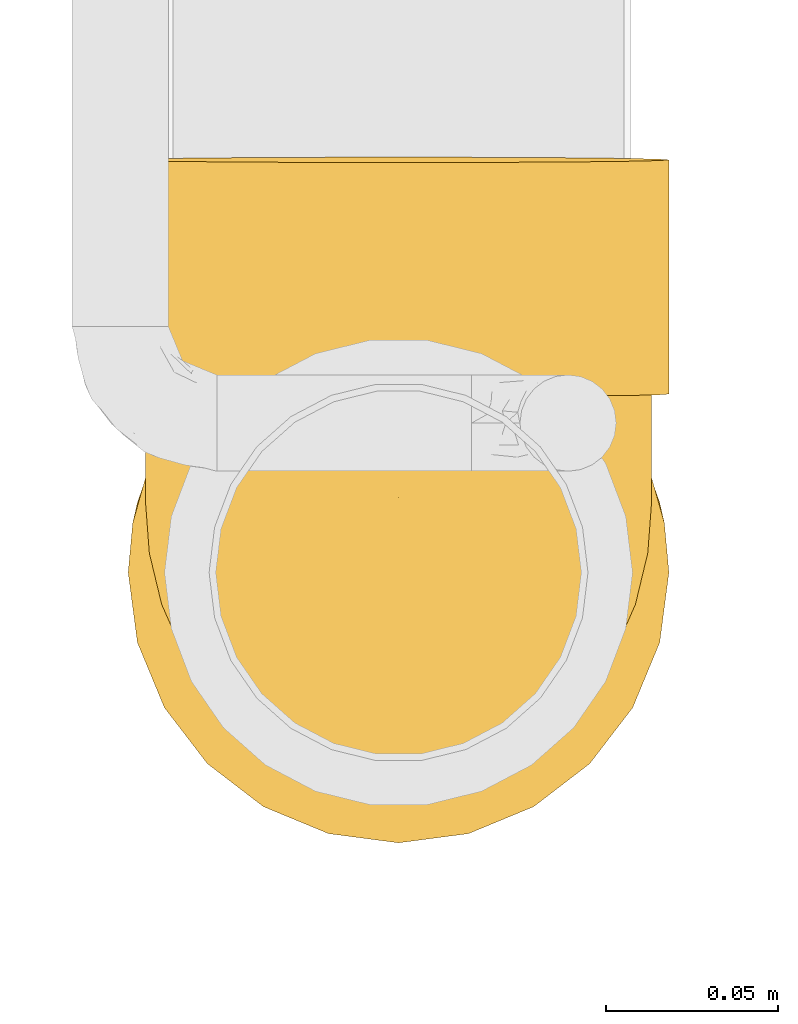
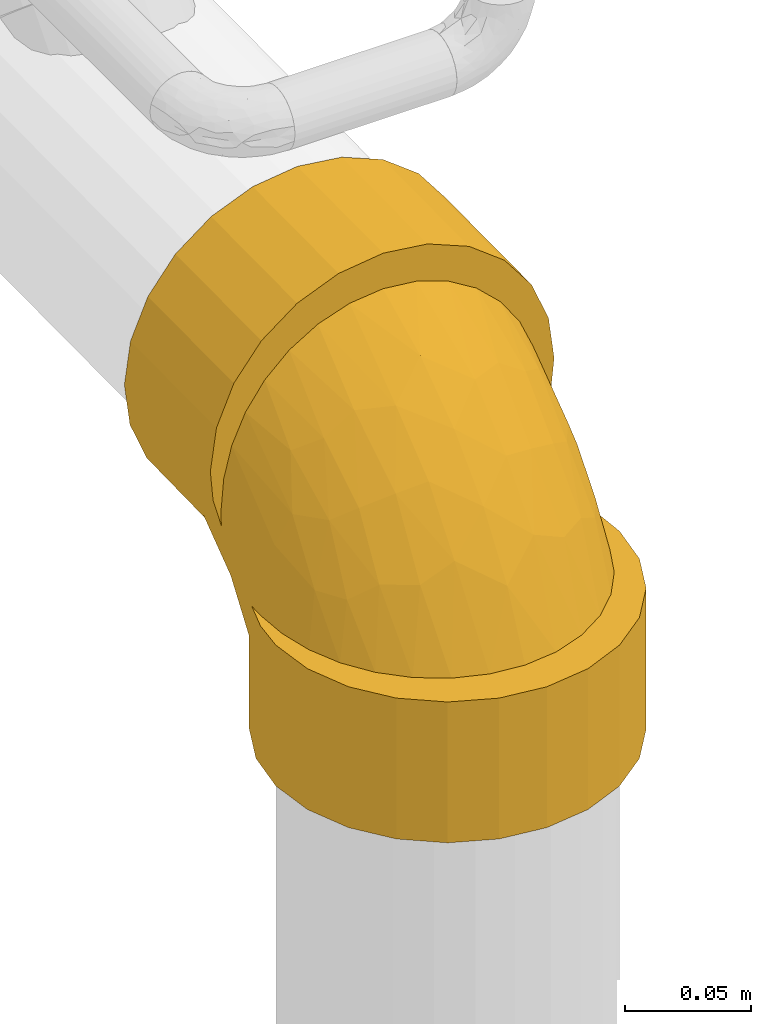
# One storey, part 11 of 108: 1 covering.
"""IFC2X3 building model written with IfcOpenShell, lengths in millimetres."""

from ifc_helpers import new_model, entity, si_unit, converted_unit, derived_unit, direction, frame, origin_with_axes, place, context, subcontext, project, spatial, open_shell, surface_model, source, transform, mapped, element, save


model = new_model("IFC2X3")

# Units and contexts
model_context = context("Model", 3, precision=0.01, world=frame((0.0, 4.29681676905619e-09, 0.0)), true_north=direction((4.01073788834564e-13, 1.0)))
plan_context = context("Plan", 3, precision=0.01, world=frame((0.0, 4.29681676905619e-09, 0.0)), true_north=direction((4.01073788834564e-13, 1.0)))
body_context = subcontext(model_context, "Body", "Model", "MODEL_VIEW")
ifc_project = project(units=[converted_unit("PLANEANGLEUNIT", "DEGREE", entity("IfcPositiveLengthMeasure", 0.0174532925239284), si_unit("PLANEANGLEUNIT", "RADIAN"), dimensions=[0, 0, 0, 0, 0, 0, 0]), si_unit("AREAUNIT", "SQUARE_METRE"), si_unit("LENGTHUNIT", "METRE", prefix="MILLI"), si_unit("MASSUNIT", "GRAM", prefix="KILO"), si_unit("POWERUNIT", "WATT"), si_unit("PRESSUREUNIT", "PASCAL", prefix="KILO"), si_unit("FORCEUNIT", "NEWTON", prefix="KILO"), si_unit("ELECTRICVOLTAGEUNIT", "VOLT"), si_unit("ELECTRICCURRENTUNIT", "AMPERE"), si_unit("THERMODYNAMICTEMPERATUREUNIT", "DEGREE_CELSIUS"), si_unit("TIMEUNIT", "SECOND"), si_unit("VOLUMEUNIT", "CUBIC_METRE"), derived_unit("LINEARVELOCITYUNIT", [(si_unit("LENGTHUNIT", "METRE"), 1), (si_unit("TIMEUNIT", "SECOND"), -1)]), derived_unit("VOLUMETRICFLOWRATEUNIT", [(si_unit("VOLUMEUNIT", "CUBIC_METRE"), 1), (si_unit("TIMEUNIT", "SECOND"), -1)]), derived_unit("THERMALTRANSMITTANCEUNIT", [(si_unit("POWERUNIT", "WATT"), 1), (si_unit("THERMODYNAMICTEMPERATUREUNIT", "KELVIN"), -1), (si_unit("AREAUNIT", "SQUARE_METRE"), -1)]), derived_unit("SOUNDPRESSUREUNIT", [(si_unit("PRESSUREUNIT", "PASCAL"), 1)])], contexts=[model_context, plan_context])

# Site, building, storey
site_placement = place(None, frame((0.0, -4.29681676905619e-09, 0.0), z_axis=(0.0, 0.0, 1.0), x_axis=(1.0, 0.0, 0.0)))
site = spatial("IfcSite", under=ifc_project, at=site_placement, CompositionType="ELEMENT")
building_placement = place(site_placement, frame((0.0, 4.29681676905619e-09, 0.0), z_axis=(0.0, 0.0, 1.0), x_axis=(1.0, 0.0, 0.0)))
building = spatial("IfcBuilding", under=site, at=building_placement, Name="mc-building", CompositionType="ELEMENT")
storey_placement = place(building_placement, frame((0.0, 0.0, 210200.0), z_axis=(0.0, 0.0, 1.0), x_axis=(1.0, 0.0, 0.0)))
storey = spatial("IfcBuildingStorey", under=building, at=storey_placement, Name="Nivå F - 0,7 m", CompositionType="ELEMENT", Elevation=210200.0)

# Covering
shared_shape = source(origin_with_axes(), body_context, "Body", "SurfaceModel", [
    surface_model("IfcShellBasedSurfaceModel", [(-51.79605, 20.91504, 73.5), (-51.79605, 24.56162, 73.43881), (-51.79605, 14.36644, 77.17419), (-51.79605, 28.2042, 73.25826), (-119.79605, 20.31729, 75.82518), (-119.79605, -20.31729, 75.82518), (-119.79605, 0.0, 78.5), (-119.79605, 55.50788, 55.50788), (-119.79605, 39.25, 67.983), (-119.79605, 67.983, 39.25), (-119.79605, 75.82518, 20.31729), (-119.79605, -39.25, 67.983), (-119.79605, -78.5, 0.0), (-119.79605, -55.50788, 55.50788), (-119.79605, -75.82518, 20.31729), (-119.79605, -67.983, 39.25), (-119.79605, 78.5, 0.0), (-119.79605, -67.983, -39.25), (-119.79605, 75.82518, -20.31729), (-119.79605, 39.25, -67.983), (-119.79605, 67.983, -39.25), (-119.79605, 20.31729, -75.82518), (-119.79605, 55.50788, -55.50788), (-119.79605, -39.25, -67.983), (-119.79605, -55.50788, -55.50788), (-119.79605, -75.82518, -20.31729), (-119.79605, 0.0, -78.5), (-119.79605, -20.31729, -75.82518), (-98.1846, 77.47891, 12.62014), (-119.79605, 77.16259, 10.15865), (-91.93105, 63.02644, 46.79656), (-96.98023, 74.45802, 24.86469), (-98.58285, 78.5, 0.0), (-94.92986, 69.56634, 36.36996), (-87.76783, 55.18462, 55.82927), (-82.04571, 46.5999, 63.17198), (-74.20012, 38.25749, 68.54644), (-63.88761, 31.69435, 71.81726), (-51.79605, 0.0, 78.5), (-51.79605, -39.25, 67.983), (-51.79605, -20.31729, 75.82518), (-51.79605, -55.50788, 55.50788), (-51.79605, -67.983, 39.25), (-51.79605, -75.82518, 20.31729), (-51.79605, -78.5, 0.0), (-51.79605, -75.82518, -20.31729), (-51.79605, -67.983, -39.25), (-51.79605, -55.50788, -55.50788), (-51.79605, -39.25, -67.983), (-51.79605, -20.31729, -75.82518), (-51.79605, 0.0, -78.5), (-74.20012, 38.25749, -68.54644), (-82.04571, 46.5999, -63.17198), (-98.1846, 77.47891, -12.62014), (-119.79605, 77.16259, -10.15865), (-63.88761, 31.69435, -71.81726), (-91.93105, 63.02644, -46.79656), (-96.98023, 74.45802, -24.86469), (-87.76783, 55.18462, -55.82927), (-94.92986, 69.56634, -36.36996), (-13.84746, 51.93711, -77.17425), (-20.39605, 52.0026, -73.5), (-24.04246, 52.03907, -73.43881), (-27.68486, 52.07549, -73.25826), (-24.04246, 52.03907, 73.43881), (-20.39605, 52.0026, 73.5), (-13.84746, 51.93711, 77.17425), (-27.68486, 52.07549, 73.25826), (21.51418, 119.5869, 75.82518), (-19.11838, 119.99322, 75.82518), (1.1979, 119.79006, 78.5), (-66.78169, 120.46985, 39.25), (-77.29817, 120.57503, 0.0), (-74.62348, 120.54827, 20.31729), (79.69397, 119.0051, 0.0), (77.01929, 119.03184, -20.31729), (69.1775, 119.11026, -39.25), (76.33932, 51.03525, 20.31729), (77.01929, 119.03184, 20.31729), (79.01401, 51.0085, 0.0), (56.02304, 51.23841, 55.50788), (68.49753, 51.11366, 39.25), (69.1775, 119.11026, 39.25), (56.70301, 119.23501, 55.50788), (39.76597, 51.40098, 67.983), (40.44594, 119.39758, 67.983), (20.83421, 51.5903, 75.82518), (0.51793, 51.79346, 78.5), (-38.05014, 120.18254, 67.983), (-37.51362, 74.57897, 68.54644), (-45.77716, 82.50758, 63.17198), (-54.3072, 120.34511, 55.50788), (-76.49324, 98.95444, 12.62014), (-75.96083, 120.56165, 10.15865), (-31.05392, 64.20134, 71.81726), (-62.10403, 92.55669, 46.79656), (-77.51029, 99.36288, 0.0), (-73.48455, 97.71993, 24.86469), (-54.30423, 88.31527, 55.82927), (-68.61361, 95.62074, 36.36996), (-76.49324, 98.95444, -12.62014), (-75.96083, 120.56165, -10.15865), (-74.62348, 120.54827, -20.31729), (-73.48455, 97.71993, -24.86469), (-66.78169, 120.46985, -39.25), (-62.10403, 92.55669, -46.79656), (-54.3072, 120.34511, -55.50788), (-68.61361, 95.62074, -36.36996), (-54.30423, 88.31527, -55.82927), (-45.77716, 82.50758, -63.17198), (-37.51362, 74.57897, -68.54644), (-38.05014, 120.18254, -67.983), (-19.11838, 119.99322, -75.82518), (1.1979, 119.79006, -78.5), (-31.05392, 64.20134, -71.81726), (0.51793, 51.79346, -78.5), (20.83421, 51.5903, -75.82518), (21.51418, 119.5869, -75.82518), (40.44594, 119.39758, -67.983), (39.76597, 51.40098, -67.983), (56.70301, 119.23501, -55.50788), (56.02304, 51.23841, -55.50788), (68.49753, 51.11366, -39.25), (76.33932, 51.03525, -20.31729), (-47.40426, 47.88068, 71.23477), (-60.92831, 59.45465, 64.17298), (-80.92008, 82.74401, 31.39463), (-46.14511, 25.56558, 73.5), (-40.49417, 30.21613, 73.5), (-34.66498, 35.01337, 73.5), (-29.80969, 40.79429, 73.5), (-25.10288, 46.39845, 73.5), (-71.89187, 72.61439, 51.0154), (-86.37683, 87.24492, 0.0), (-89.21703, 81.36474, 19.23032), (-82.19366, 89.20415, 15.91371), (-84.82198, 84.05513, -22.01178), (-77.10094, 77.8758, -42.003), (-65.48687, 78.30622, -52.02608), (-74.10173, 65.91814, -54.3942), (-60.03494, 60.63829, -64.04669), (-47.40426, 47.88068, -71.23477), (-76.55997, 87.95391, -31.13182), (-25.10288, 46.39845, -73.5), (-29.80969, 40.79429, -73.5), (-51.79605, 28.2042, -73.25826), (-46.14511, 25.56558, -73.5), (-51.79605, 20.91504, -73.5), (-51.79605, 24.56162, -73.43881), (-34.66498, 35.01337, -73.5), (-40.49417, 30.21613, -73.5), (-51.79605, -9.27174, -68.76607), (-51.79605, -23.31083, -62.59185), (-51.79605, 5.6383, -72.35703), (-51.79605, -35.91477, -53.8583), (-51.79605, -46.49952, -42.76725), (-51.79605, -54.51871, -29.70312), (-51.79605, -59.52523, -15.21649), (-51.79605, -61.22582, 0.0), (-51.79605, -23.31083, 62.59185), (-51.79605, -9.27174, 68.76607), (-51.79605, 5.6383, 72.35703), (-51.79605, -59.52523, 15.21649), (-51.79605, -54.51871, 29.70312), (-51.79605, -35.91477, 53.8583), (-51.79605, -46.49952, 42.76725), (47.01513, 51.32849, -42.76725), (36.43091, 51.43433, -53.8583), (23.82759, 51.56037, -62.59185), (55.03392, 51.2483, -29.70312), (60.04019, 51.19824, -15.21649), (61.74069, 51.18123, 0.0), (-5.12008, 51.84984, -72.35703), (9.78921, 51.70075, -68.76607), (60.04019, 51.19824, 15.21649), (55.03392, 51.2483, 29.70312), (47.01513, 51.32849, 42.76725), (36.43091, 51.43433, 53.8583), (23.82759, 51.56037, 62.59185), (9.78921, 51.70075, 68.76607), (-5.12008, 51.84984, 72.35703), (6.56689, -6.6329, 44.35957), (-17.37525, -35.16081, 32.84747), (12.25549, -12.37867, 30.89845), (-22.06533, -47.16348, 0.0), (-9.98149, -36.79585, 18.06008), (4.87101, -28.29292, 0.0), (36.89382, 9.61304, 18.06008), (15.52205, -15.67805, 17.71702), (28.24279, -5.15368, 0.0), (18.72063, 26.17798, 56.62227), (-18.42121, -25.66405, 46.04504), (0.20714, -0.20922, 54.27296), (-26.36387, -18.45793, 56.62227), (-13.82399, 2.47636, 62.92046), (-17.11278, 17.28476, 69.13658), (25.84696, 18.16366, 46.04504), (47.38177, 21.59262, 0.0), (35.33279, 17.02278, 32.84747), (5.9577, 26.8283, 64.02032), (-18.42121, -25.66405, -46.04504), (25.84696, 18.16366, -46.04504), (18.72063, 26.17798, -56.62227), (-13.82399, 2.47636, -62.92046), (0.20714, -0.20922, -54.27296), (-26.36387, -18.45793, -56.62227), (-17.11278, 17.28476, -69.13658), (5.9577, 26.8283, -64.02032), (35.33279, 17.02278, -32.84747), (-17.37525, -35.16081, -32.84747), (6.56689, -6.6329, -44.35957), (36.89382, 9.61304, -18.06008), (15.52205, -15.67805, -17.71702), (12.25549, -12.37867, -30.89845), (-9.98149, -36.79585, -18.06008), (-51.79605, 14.36644, -77.17419)], [open_shell([[[0, 1, 2]], [[1, 3, 2]], [[4, 5, 6]], [[7, 4, 8]], [[7, 9, 10]], [[4, 7, 5]], [[10, 5, 7]], [[11, 12, 13]], [[12, 11, 5]], [[13, 14, 15]], [[14, 13, 12]], [[5, 10, 12]], [[10, 16, 12]], [[17, 12, 18]], [[19, 18, 20]], [[19, 21, 18]], [[19, 20, 22]], [[17, 18, 21]], [[17, 23, 24]], [[25, 12, 17]], [[23, 26, 27]], [[23, 17, 21]], [[26, 23, 21]], [[12, 16, 18]], [[28, 29, 10]], [[9, 7, 30]], [[31, 10, 9]], [[32, 16, 29]], [[33, 31, 9]], [[30, 33, 9]], [[28, 10, 31]], [[7, 34, 30]], [[34, 7, 35]], [[36, 8, 4]], [[8, 36, 35]], [[7, 8, 35]], [[2, 4, 6]], [[32, 29, 28]], [[36, 4, 37]], [[37, 2, 3]], [[4, 2, 37]], [[6, 38, 2]], [[11, 13, 39]], [[38, 6, 40]], [[5, 39, 40]], [[39, 5, 11]], [[6, 5, 40]], [[13, 41, 39]], [[42, 15, 14]], [[43, 14, 12]], [[41, 15, 42]], [[42, 14, 43]], [[12, 44, 43]], [[15, 41, 13]], [[45, 25, 17]], [[46, 17, 24]], [[44, 12, 45]], [[45, 12, 25]], [[17, 46, 45]], [[24, 47, 46]], [[48, 23, 27]], [[49, 27, 26]], [[47, 23, 48]], [[48, 27, 49]], [[26, 50, 49]], [[23, 47, 24]], [[21, 19, 51]], [[52, 19, 22]], [[52, 51, 19]], [[53, 18, 54]], [[51, 55, 21]], [[56, 22, 20]], [[54, 16, 32]], [[20, 18, 57]], [[32, 53, 54]], [[56, 58, 22]], [[57, 59, 20]], [[53, 57, 18]], [[56, 20, 59]], [[22, 58, 52]], [[60, 61, 62]], [[62, 63, 60]], [[64, 65, 66]], [[64, 66, 67]], [[68, 69, 70]], [[71, 72, 73]], [[74, 75, 76]], [[77, 74, 78]], [[79, 74, 77]], [[80, 81, 82]], [[81, 77, 78]], [[82, 81, 78]], [[82, 83, 80]], [[84, 85, 68]], [[86, 68, 70]], [[80, 85, 84]], [[84, 68, 86]], [[70, 87, 86]], [[85, 80, 83]], [[66, 70, 69]], [[69, 88, 89]], [[90, 88, 91]], [[90, 89, 88]], [[87, 70, 66]], [[92, 73, 93]], [[94, 67, 66]], [[94, 66, 69]], [[89, 94, 69]], [[95, 91, 71]], [[93, 72, 96]], [[71, 73, 97]], [[96, 92, 93]], [[95, 98, 91]], [[97, 99, 71]], [[92, 97, 73]], [[95, 71, 99]], [[91, 98, 90]], [[100, 101, 102]], [[103, 102, 104]], [[105, 104, 106]], [[96, 72, 101]], [[107, 103, 104]], [[105, 107, 104]], [[100, 102, 103]], [[106, 108, 105]], [[108, 106, 109]], [[110, 111, 112]], [[111, 110, 109]], [[106, 111, 109]], [[60, 112, 113]], [[96, 101, 100]], [[110, 112, 114]], [[114, 60, 63]], [[112, 60, 114]], [[113, 115, 60]], [[116, 117, 118]], [[119, 118, 120]], [[113, 117, 115]], [[115, 117, 116]], [[118, 119, 116]], [[120, 121, 119]], [[122, 76, 75]], [[123, 75, 74]], [[121, 76, 122]], [[122, 75, 123]], [[74, 79, 123]], [[76, 121, 120]], [[36, 124, 125]], [[95, 99, 126]], [[3, 124, 37]], [[3, 1, 127]], [[3, 128, 129]], [[124, 3, 129]], [[130, 131, 67]], [[89, 124, 94]], [[132, 34, 125]], [[30, 34, 132]], [[36, 125, 35]], [[133, 32, 134]], [[126, 33, 132]], [[33, 30, 132]], [[1, 0, 127]], [[135, 134, 126]], [[134, 32, 28]], [[97, 92, 135]], [[97, 135, 126]], [[67, 124, 129]], [[130, 67, 129]], [[64, 131, 65]], [[35, 125, 34]], [[127, 128, 3]], [[90, 98, 125]], [[90, 125, 89]], [[89, 125, 124]], [[125, 98, 132]], [[135, 96, 133]], [[135, 92, 96]], [[67, 131, 64]], [[126, 134, 33]], [[95, 126, 132]], [[124, 36, 37]], [[28, 31, 134]], [[99, 97, 126]], [[95, 132, 98]], [[133, 134, 135]], [[94, 124, 67]], [[134, 31, 33]], [[57, 136, 59]], [[136, 133, 100]], [[59, 136, 137]], [[53, 32, 133]], [[138, 105, 108]], [[53, 136, 57]], [[133, 136, 53]], [[137, 139, 56]], [[140, 141, 51]], [[139, 140, 52]], [[56, 139, 58]], [[137, 136, 142]], [[143, 144, 63]], [[145, 55, 141]], [[146, 147, 148]], [[62, 61, 143]], [[145, 149, 150]], [[52, 58, 139]], [[51, 52, 140]], [[138, 139, 137]], [[107, 142, 103]], [[105, 142, 107]], [[105, 137, 142]], [[110, 141, 140]], [[100, 142, 136]], [[142, 100, 103]], [[109, 140, 138]], [[56, 59, 137]], [[140, 139, 138]], [[62, 143, 63]], [[145, 141, 149]], [[150, 146, 145]], [[63, 144, 149]], [[141, 63, 149]], [[51, 141, 55]], [[145, 146, 148]], [[138, 108, 109]], [[63, 141, 114]], [[110, 114, 141]], [[110, 140, 109]], [[100, 133, 96]], [[105, 138, 137]], [[151, 49, 50]], [[151, 152, 49]], [[153, 151, 50]], [[49, 152, 48]], [[48, 154, 47]], [[154, 48, 152]], [[47, 155, 46]], [[155, 47, 154]], [[156, 157, 45]], [[156, 45, 46]], [[44, 45, 157]], [[44, 157, 158]], [[156, 46, 155]], [[159, 160, 40]], [[161, 38, 160]], [[38, 40, 160]], [[159, 40, 39]], [[162, 163, 43]], [[43, 44, 162]], [[163, 42, 43]], [[44, 158, 162]], [[164, 39, 41]], [[39, 164, 159]], [[42, 165, 41]], [[165, 42, 163]], [[41, 165, 164]], [[121, 166, 167]], [[166, 121, 122]], [[119, 167, 168]], [[167, 119, 121]], [[122, 123, 169]], [[170, 169, 123]], [[79, 171, 170]], [[170, 123, 79]], [[122, 169, 166]], [[172, 60, 115]], [[172, 61, 60]], [[115, 116, 173]], [[168, 173, 116]], [[173, 172, 115]], [[116, 119, 168]], [[79, 77, 174]], [[175, 174, 77]], [[77, 81, 175]], [[81, 80, 176]], [[80, 177, 176]], [[177, 80, 84]], [[177, 84, 178]], [[81, 176, 175]], [[179, 178, 86]], [[179, 87, 180]], [[66, 180, 87]], [[65, 180, 66]], [[87, 179, 86]], [[178, 84, 86]], [[174, 171, 79]], [[118, 117, 76]], [[118, 76, 120]], [[181, 182, 183]], [[162, 158, 184]], [[185, 184, 186]], [[187, 188, 189]], [[177, 178, 190]], [[185, 163, 162]], [[165, 182, 191]], [[162, 184, 185]], [[191, 192, 193]], [[193, 159, 164]], [[159, 193, 194]], [[175, 187, 174]], [[159, 194, 160]], [[195, 161, 160]], [[192, 181, 196]], [[182, 165, 163]], [[161, 129, 0]], [[179, 180, 195]], [[183, 188, 187]], [[197, 174, 187]], [[196, 177, 190]], [[198, 176, 196]], [[183, 185, 188]], [[177, 196, 176]], [[198, 196, 181]], [[174, 197, 171]], [[178, 179, 199]], [[196, 190, 192]], [[183, 182, 185]], [[190, 178, 199]], [[129, 180, 65]], [[161, 195, 129]], [[183, 187, 198]], [[164, 165, 191]], [[129, 195, 180]], [[199, 194, 192]], [[192, 190, 199]], [[194, 193, 192]], [[199, 195, 194]], [[191, 193, 164]], [[160, 194, 195]], [[187, 189, 197]], [[195, 199, 179]], [[181, 192, 191]], [[163, 185, 182]], [[187, 175, 198]], [[176, 198, 175]], [[185, 186, 188]], [[189, 188, 186]], [[182, 181, 191]], [[198, 181, 183]], [[154, 200, 155]], [[201, 202, 167]], [[203, 204, 205]], [[203, 205, 152]], [[200, 205, 204]], [[151, 206, 203]], [[206, 173, 207]], [[206, 153, 149]], [[184, 158, 157]], [[166, 208, 201]], [[173, 168, 207]], [[209, 200, 210]], [[211, 212, 213]], [[169, 170, 211]], [[168, 167, 202]], [[186, 184, 214]], [[206, 207, 203]], [[210, 208, 213]], [[153, 147, 149]], [[207, 204, 203]], [[149, 61, 172]], [[167, 166, 201]], [[213, 214, 209]], [[206, 151, 153]], [[154, 152, 205]], [[204, 210, 200]], [[208, 166, 169]], [[202, 204, 207]], [[210, 204, 201]], [[202, 201, 204]], [[189, 186, 212]], [[213, 208, 211]], [[212, 214, 213]], [[200, 209, 155]], [[170, 171, 197]], [[156, 214, 157]], [[184, 157, 214]], [[211, 197, 189]], [[172, 173, 206]], [[200, 154, 205]], [[168, 202, 207]], [[172, 206, 149]], [[152, 151, 203]], [[170, 197, 211]], [[169, 211, 208]], [[214, 156, 209]], [[155, 209, 156]], [[189, 212, 211]], [[186, 214, 212]], [[208, 210, 201]], [[209, 210, 213]], [[50, 215, 153]], [[147, 215, 148]], [[153, 215, 147]], [[145, 148, 215]], [[161, 2, 38]], [[161, 0, 2]], [[215, 26, 21]], [[50, 26, 215]], [[55, 145, 215]], [[55, 215, 21]], [[78, 68, 85]], [[83, 82, 78]], [[83, 78, 85]], [[102, 72, 68]], [[88, 71, 91]], [[71, 88, 69]], [[72, 71, 69]], [[69, 68, 72]], [[68, 78, 102]], [[74, 76, 117]], [[74, 117, 111]], [[104, 111, 106]], [[104, 102, 74]], [[111, 113, 112]], [[111, 104, 74]], [[113, 111, 117]], [[74, 102, 78]]])]),
])
covering_placement = place(storey_placement, frame((328906.4829, 462815.28789, 3065.60925000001), z_axis=(1.0, 0.0, 0.0), x_axis=(0.0, -0.999949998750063, -0.0099999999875)))
element("IfcCovering", 1, at=covering_placement, inside=storey, Name="BI17T - Cellegummi 13 mm SPV fett", PredefinedType="INSULATION", context=body_context, shape_type="MappedRepresentation", body=[
    mapped(shared_shape, transform((0.0, 0.0, 0.0), scale=1.0)),
])

save(model, "model.ifc")
